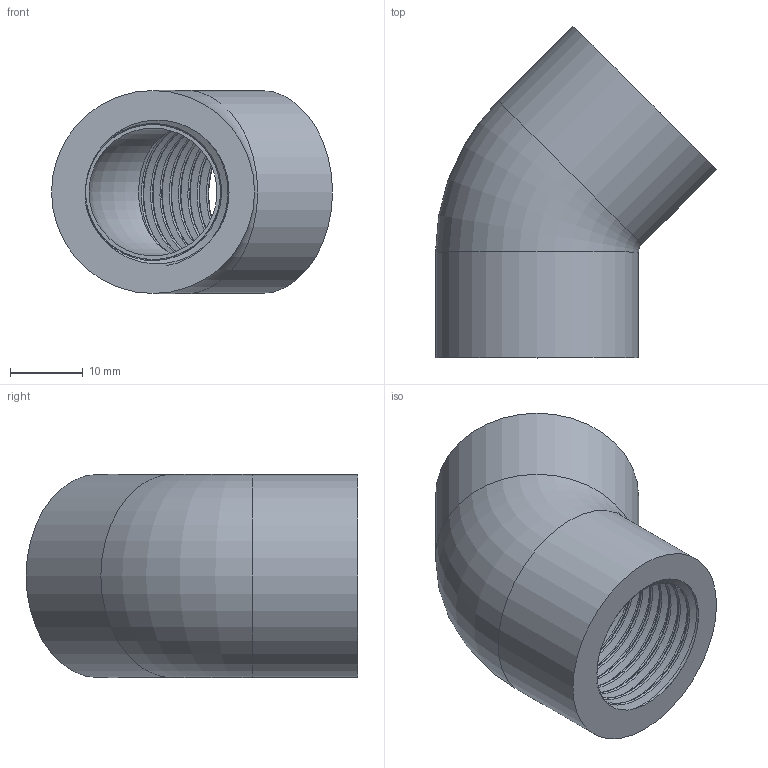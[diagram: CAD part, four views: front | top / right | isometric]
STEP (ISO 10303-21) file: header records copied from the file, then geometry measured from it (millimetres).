
FILE_DESCRIPTION(/* description */ ('PVC gomito a 45° incollaggio metrico'),/* implementation_level */ '2;1');
FILE_NAME(/* name */ 'C:\Users\POLYPIPE\Desktop\DATASET INVENTOR\LIBRERIA EFFAST\RACCORDI 3DxWEB\RER\3D_RERGYE\3D_RERGYE020B.stp',/* time_stamp */ '2018-01-19T16:33:44+01:00',/* author */ ('POLYPIPE'),/* organization */ ('Polypipe Italia s.r.l.'),/* preprocessor_version */ 'ST-DEVELOPER v16.1',/* originating_system */ 'Autodesk Inventor 2016',/* authorisation */ '');
FILE_SCHEMA (('CONFIG_CONTROL_DESIGN'));
Length unit declared in the file: millimetre
Products named in the file (1): 3D_RERGYE
Bounding box: 38.75 x 45.75 x 28 mm (x, y, z)
Volume: 13369.9 mm3; surface area: 8429.9 mm2
Topology: 1 solids, 1 shells, 22 faces, 46 edges, 28 vertices
Faces by surface type: bspline 10, plane 6, cylinder 4, torus 2
Full cylindrical faces by diameter (mm): 18.631 x2, 28 x2
Entity records: 7406 total; most frequent: CARTESIAN_POINT 6991, ORIENTED_EDGE 84, DIRECTION 56, EDGE_CURVE 42, EDGE_LOOP 30, VERTEX_POINT 28, AXIS2_PLACEMENT_3D 25, B_SPLINE_CURVE_WITH_KNOTS 24
